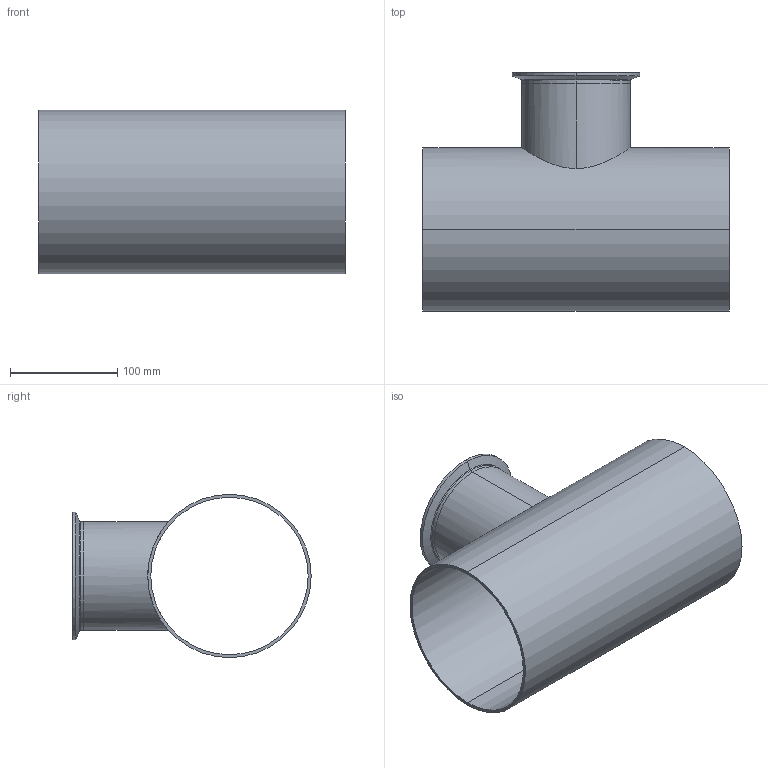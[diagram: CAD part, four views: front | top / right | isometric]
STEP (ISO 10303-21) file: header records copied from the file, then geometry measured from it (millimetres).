
FILE_DESCRIPTION (( 'STEP AP214' ), '1' );
FILE_NAME ('TE7RWWC6L6.0x4.0-...STEP', '2016-05-23T09:41:49', ( 'eran' ), ( '' ), 'SwSTEP 2.0', 'SolidWorks 2016', '' );
FILE_SCHEMA (( 'AUTOMOTIVE_DESIGN' ));
Length unit declared in the file: millimetre
Products named in the file (1): TE7RWWC6L6.0x4.0-..
Bounding box: 285.8 x 222.3 x 152.4 mm (x, y, z)
Volume: 414871.7 mm3; surface area: 312351 mm2
Topology: 2 solids, 2 shells, 36 faces, 88 edges, 58 vertices
Faces by surface type: cylinder 14, bspline 10, plane 6, cone 6
Entity records: 2073 total; most frequent: CARTESIAN_POINT 1169, DIRECTION 190, ORIENTED_EDGE 176, EDGE_CURVE 88, AXIS2_PLACEMENT_3D 85, VERTEX_POINT 58, CIRCLE 58, EDGE_LOOP 44
